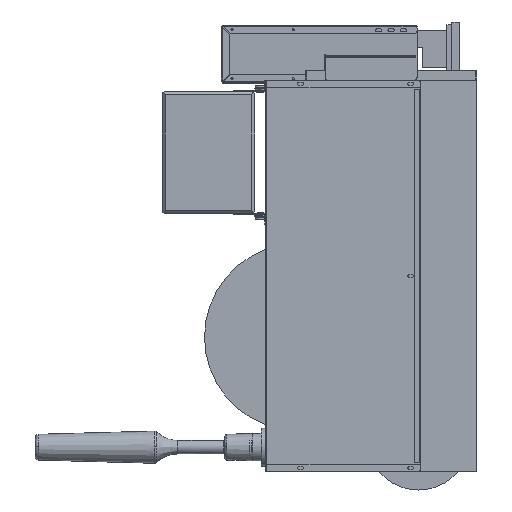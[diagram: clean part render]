
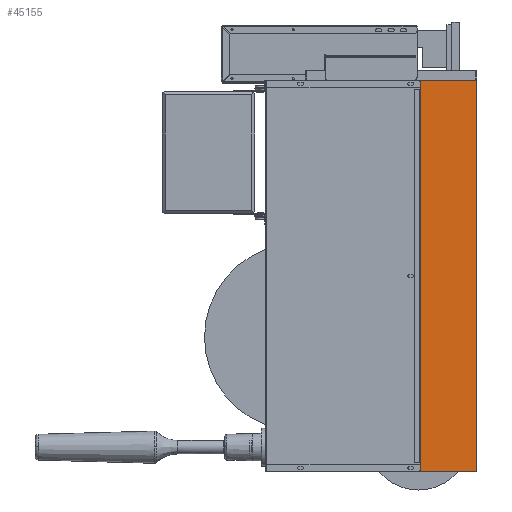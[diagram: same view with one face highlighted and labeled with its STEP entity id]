
A CAD part, left-side view. The second image highlights one B-rep face of the part: STEP entity #45155.
In plain terms, the highlighted planar face has unit normal (-1, 0, 0).
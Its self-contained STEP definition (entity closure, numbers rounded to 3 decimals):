
#3029 = CARTESIAN_POINT ( 'NONE',  ( -10., 80., -640. ) ) ;
#3208 = VERTEX_POINT ( 'NONE', #5944 ) ;
#3775 = EDGE_CURVE ( 'NONE', #48209, #9314, #47730, .T. ) ;
#3959 = AXIS2_PLACEMENT_3D ( 'NONE', #45288, #26642, #11748 ) ;
#4258 = VECTOR ( 'NONE', #9151, 1000. ) ;
#4282 = DIRECTION ( 'NONE',  ( 0., 1., 0. ) ) ;
#5944 = CARTESIAN_POINT ( 'NONE',  ( -10., -12., -640. ) ) ;
#6376 = CARTESIAN_POINT ( 'NONE',  ( -10., 80., -320. ) ) ;
#9151 = DIRECTION ( 'NONE',  ( 0., 0., -1. ) ) ;
#9311 = CARTESIAN_POINT ( 'NONE',  ( -10., -12., -320. ) ) ;
#9314 = VERTEX_POINT ( 'NONE', #28862 ) ;
#10072 = FACE_OUTER_BOUND ( 'NONE', #24573, .T. ) ;
#11117 = VECTOR ( 'NONE', #44676, 1000. ) ;
#11748 = DIRECTION ( 'NONE',  ( 0., 0., 1. ) ) ;
#11810 = CARTESIAN_POINT ( 'NONE',  ( -10., 34., 0. ) ) ;
#11935 = LINE ( 'NONE', #38372, #36501 ) ;
#13412 = EDGE_CURVE ( 'NONE', #9314, #33493, #33950, .T. ) ;
#15344 = PLANE ( 'NONE',  #3959 ) ;
#24573 = EDGE_LOOP ( 'NONE', ( #46681, #40378, #41344, #26174 ) ) ;
#25652 = EDGE_CURVE ( 'NONE', #33493, #3208, #28924, .T. ) ;
#26174 = ORIENTED_EDGE ( 'NONE', *, *, #13412, .F. ) ;
#26642 = DIRECTION ( 'NONE',  ( 1., 0., 0. ) ) ;
#28862 = CARTESIAN_POINT ( 'NONE',  ( -10., 80., 0. ) ) ;
#28924 = LINE ( 'NONE', #9311, #4258 ) ;
#32884 = DIRECTION ( 'NONE',  ( 0., 0., 1. ) ) ;
#33493 = VERTEX_POINT ( 'NONE', #41412 ) ;
#33950 = LINE ( 'NONE', #11810, #11117 ) ;
#36501 = VECTOR ( 'NONE', #4282, 1000. ) ;
#36585 = VECTOR ( 'NONE', #32884, 1000. ) ;
#38372 = CARTESIAN_POINT ( 'NONE',  ( -10., 34., -640. ) ) ;
#40378 = ORIENTED_EDGE ( 'NONE', *, *, #46837, .F. ) ;
#41344 = ORIENTED_EDGE ( 'NONE', *, *, #25652, .F. ) ;
#41412 = CARTESIAN_POINT ( 'NONE',  ( -10., -12., 0. ) ) ;
#44676 = DIRECTION ( 'NONE',  ( 0., -1., 0. ) ) ;
#45155 = ADVANCED_FACE ( 'NONE', ( #10072 ), #15344, .F. ) ;
#45288 = CARTESIAN_POINT ( 'NONE',  ( -10., 80., -640. ) ) ;
#46681 = ORIENTED_EDGE ( 'NONE', *, *, #3775, .F. ) ;
#46837 = EDGE_CURVE ( 'NONE', #3208, #48209, #11935, .T. ) ;
#47730 = LINE ( 'NONE', #6376, #36585 ) ;
#48209 = VERTEX_POINT ( 'NONE', #3029 ) ;
